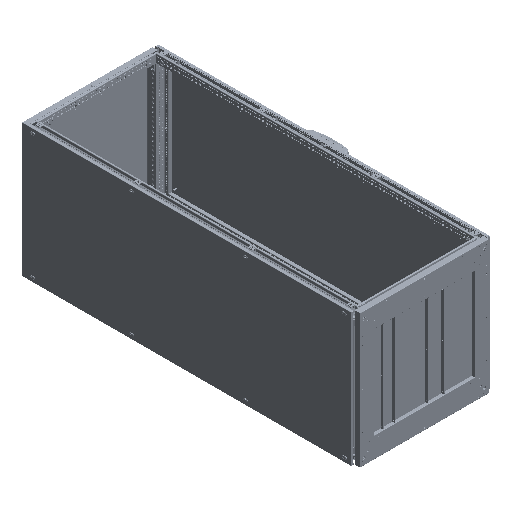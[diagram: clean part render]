
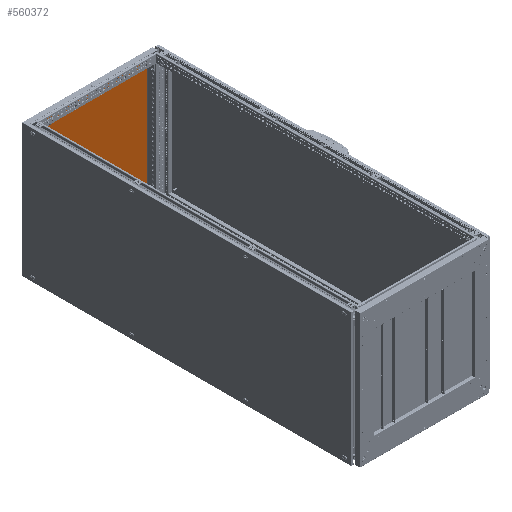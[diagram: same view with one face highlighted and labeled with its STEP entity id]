
A CAD part, isometric view. The second image highlights one B-rep face of the part: STEP entity #560372.
In plain terms, the highlighted planar face has unit normal (0, -1, 0).
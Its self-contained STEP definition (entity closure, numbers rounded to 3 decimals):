
#19485 = CARTESIAN_POINT ( 'NONE',  ( 345.01, 0., 345. ) ) ;
#21881 = CARTESIAN_POINT ( 'NONE',  ( -345.01, 0., 350. ) ) ;
#30365 = EDGE_CURVE ( 'NONE', #140620, #426662, #232964, .T. ) ;
#35202 = VECTOR ( 'NONE', #252967, 1000. ) ;
#49781 = AXIS2_PLACEMENT_3D ( 'NONE', #102723, #390292, #111754 ) ;
#62999 = CIRCLE ( 'NONE', #405173, 5. ) ;
#65441 = DIRECTION ( 'NONE',  ( 0., 0., -1. ) ) ;
#67086 = DIRECTION ( 'NONE',  ( 0., -1., 0. ) ) ;
#70528 = AXIS2_PLACEMENT_3D ( 'NONE', #535470, #67086, #336741 ) ;
#71897 = DIRECTION ( 'NONE',  ( -1., 0., 0. ) ) ;
#94092 = DIRECTION ( 'NONE',  ( 0., 0., -1. ) ) ;
#94833 = LINE ( 'NONE', #146797, #35202 ) ;
#100901 = AXIS2_PLACEMENT_3D ( 'NONE', #588822, #169494, #356160 ) ;
#102723 = CARTESIAN_POINT ( 'NONE',  ( -345.01, 0., 345. ) ) ;
#103770 = CARTESIAN_POINT ( 'NONE',  ( 345.01, 0., -350. ) ) ;
#111754 = DIRECTION ( 'NONE',  ( 0., 0., -1. ) ) ;
#117900 = CARTESIAN_POINT ( 'NONE',  ( 345.01, 0., -350. ) ) ;
#118676 = EDGE_LOOP ( 'NONE', ( #263125, #555545, #202002, #258667, #540821, #439110, #547585, #294192 ) ) ;
#119536 = CIRCLE ( 'NONE', #70528, 5. ) ;
#127887 = VERTEX_POINT ( 'NONE', #578816 ) ;
#130375 = CARTESIAN_POINT ( 'NONE',  ( -345.01, 0., -350. ) ) ;
#140620 = VERTEX_POINT ( 'NONE', #539048 ) ;
#146797 = CARTESIAN_POINT ( 'NONE',  ( 345.01, 0., 350. ) ) ;
#147276 = DIRECTION ( 'NONE',  ( 0., 0., 1. ) ) ;
#169494 = DIRECTION ( 'NONE',  ( 0., -1., 0. ) ) ;
#184657 = VECTOR ( 'NONE', #71897, 1000. ) ;
#196331 = CIRCLE ( 'NONE', #49781, 5. ) ;
#200431 = EDGE_CURVE ( 'NONE', #201803, #409023, #531222, .T. ) ;
#201803 = VERTEX_POINT ( 'NONE', #103770 ) ;
#202002 = ORIENTED_EDGE ( 'NONE', *, *, #263853, .T. ) ;
#205309 = CARTESIAN_POINT ( 'NONE',  ( -387.7, 0., -382.5 ) ) ;
#206365 = DIRECTION ( 'NONE',  ( 0., -1., 0. ) ) ;
#232964 = LINE ( 'NONE', #514441, #271656 ) ;
#237737 = CIRCLE ( 'NONE', #100901, 5. ) ;
#245252 = DIRECTION ( 'NONE',  ( 0., 1., 0. ) ) ;
#252967 = DIRECTION ( 'NONE',  ( -1., 0., 0. ) ) ;
#258667 = ORIENTED_EDGE ( 'NONE', *, *, #30365, .T. ) ;
#263125 = ORIENTED_EDGE ( 'NONE', *, *, #545755, .T. ) ;
#263853 = EDGE_CURVE ( 'NONE', #201803, #140620, #237737, .T. ) ;
#268398 = EDGE_CURVE ( 'NONE', #127887, #458932, #94833, .T. ) ;
#271656 = VECTOR ( 'NONE', #471521, 1000. ) ;
#294192 = ORIENTED_EDGE ( 'NONE', *, *, #427595, .T. ) ;
#304273 = CARTESIAN_POINT ( 'NONE',  ( -350.01, 0., -345. ) ) ;
#325786 = AXIS2_PLACEMENT_3D ( 'NONE', #205309, #245252, #147276 ) ;
#336741 = DIRECTION ( 'NONE',  ( 0., 0., -1. ) ) ;
#344372 = VECTOR ( 'NONE', #65441, 1000. ) ;
#356160 = DIRECTION ( 'NONE',  ( 0., 0., -1. ) ) ;
#379879 = FACE_OUTER_BOUND ( 'NONE', #118676, .T. ) ;
#390292 = DIRECTION ( 'NONE',  ( 0., -1., 0. ) ) ;
#405173 = AXIS2_PLACEMENT_3D ( 'NONE', #19485, #206365, #94092 ) ;
#409023 = VERTEX_POINT ( 'NONE', #130375 ) ;
#422263 = VERTEX_POINT ( 'NONE', #602294 ) ;
#426662 = VERTEX_POINT ( 'NONE', #461514 ) ;
#427595 = EDGE_CURVE ( 'NONE', #422263, #524622, #435929, .T. ) ;
#435929 = LINE ( 'NONE', #496158, #344372 ) ;
#439110 = ORIENTED_EDGE ( 'NONE', *, *, #268398, .T. ) ;
#443963 = EDGE_CURVE ( 'NONE', #426662, #127887, #62999, .T. ) ;
#458932 = VERTEX_POINT ( 'NONE', #21881 ) ;
#461514 = CARTESIAN_POINT ( 'NONE',  ( 350.01, 0., 345. ) ) ;
#465532 = EDGE_CURVE ( 'NONE', #458932, #422263, #196331, .T. ) ;
#471521 = DIRECTION ( 'NONE',  ( 0., 0., 1. ) ) ;
#483805 = PLANE ( 'NONE',  #325786 ) ;
#496158 = CARTESIAN_POINT ( 'NONE',  ( -350.01, 0., 345. ) ) ;
#514441 = CARTESIAN_POINT ( 'NONE',  ( 350.01, 0., -345. ) ) ;
#524622 = VERTEX_POINT ( 'NONE', #304273 ) ;
#531222 = LINE ( 'NONE', #117900, #184657 ) ;
#535470 = CARTESIAN_POINT ( 'NONE',  ( -345.01, 0., -345. ) ) ;
#539048 = CARTESIAN_POINT ( 'NONE',  ( 350.01, 0., -345. ) ) ;
#540821 = ORIENTED_EDGE ( 'NONE', *, *, #443963, .T. ) ;
#545755 = EDGE_CURVE ( 'NONE', #524622, #409023, #119536, .T. ) ;
#547585 = ORIENTED_EDGE ( 'NONE', *, *, #465532, .T. ) ;
#555545 = ORIENTED_EDGE ( 'NONE', *, *, #200431, .F. ) ;
#560372 = ADVANCED_FACE ( 'NONE', ( #379879 ), #483805, .F. ) ;
#578816 = CARTESIAN_POINT ( 'NONE',  ( 345.01, 0., 350. ) ) ;
#588822 = CARTESIAN_POINT ( 'NONE',  ( 345.01, 0., -345. ) ) ;
#602294 = CARTESIAN_POINT ( 'NONE',  ( -350.01, 0., 345. ) ) ;
